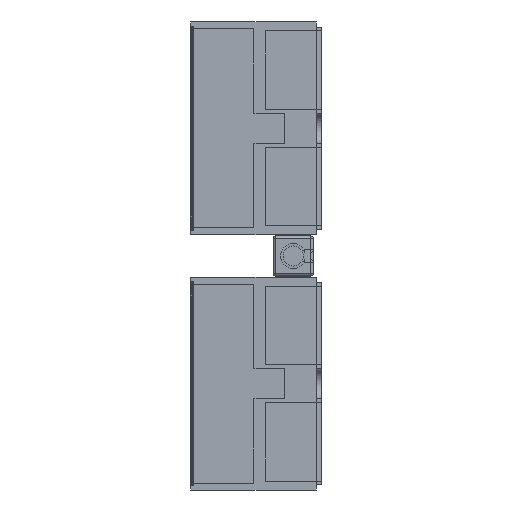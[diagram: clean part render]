
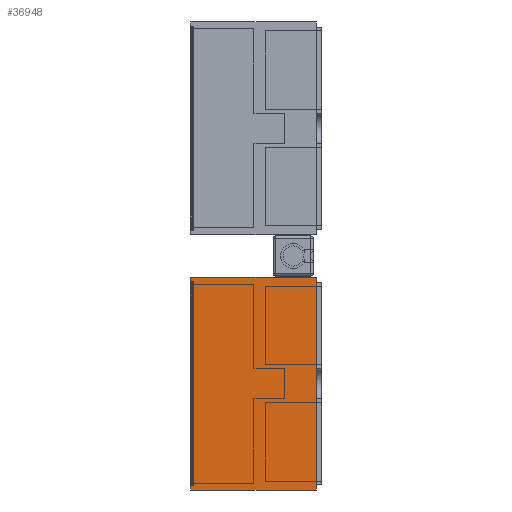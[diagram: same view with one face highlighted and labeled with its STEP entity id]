
A CAD part, front view. The second image highlights one B-rep face of the part: STEP entity #36948.
In plain terms, the highlighted planar face has unit normal (0, -1, 0) as drawn and (-0.707, -0.707, 0) by its records, which use the part's own axes.
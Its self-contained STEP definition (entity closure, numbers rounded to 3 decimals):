
#35860=DIRECTION('',(0.707,-0.707,0.));
#35861=VECTOR('',#35860,85.);
#35862=CARTESIAN_POINT('',(-60.104,0.,0.));
#35863=LINE('',#35862,#35861);
#35946=DIRECTION('',(0.,0.,1.));
#35947=VECTOR('',#35946,50.);
#35948=CARTESIAN_POINT('',(-60.104,0.,0.));
#35949=LINE('',#35948,#35947);
#35958=DIRECTION('',(0.,0.,1.));
#35959=VECTOR('',#35958,50.);
#35960=CARTESIAN_POINT('',(0.,-60.104,0.));
#35961=LINE('',#35960,#35959);
#35962=DIRECTION('',(0.707,-0.707,0.));
#35963=VECTOR('',#35962,85.);
#35964=CARTESIAN_POINT('',(-60.104,0.,50.));
#35965=LINE('',#35964,#35963);
#36768=CARTESIAN_POINT('',(-60.104,0.,0.));
#36769=CARTESIAN_POINT('',(0.,-60.104,0.));
#36770=VERTEX_POINT('',#36768);
#36771=VERTEX_POINT('',#36769);
#36776=CARTESIAN_POINT('',(-60.104,0.,50.));
#36777=CARTESIAN_POINT('',(0.,-60.104,50.));
#36778=VERTEX_POINT('',#36776);
#36779=VERTEX_POINT('',#36777);
#36934=CARTESIAN_POINT('',(-60.104,0.,0.));
#36935=DIRECTION('',(-0.707,-0.707,0.));
#36936=DIRECTION('',(0.707,-0.707,0.));
#36937=AXIS2_PLACEMENT_3D('',#36934,#36935,#36936);
#36938=PLANE('',#36937);
#36939=ORIENTED_EDGE('',*,*,#36885,.F.);
#36941=ORIENTED_EDGE('',*,*,#36940,.T.);
#36943=ORIENTED_EDGE('',*,*,#36942,.T.);
#36945=ORIENTED_EDGE('',*,*,#36944,.F.);
#36946=EDGE_LOOP('',(#36939,#36941,#36943,#36945));
#36947=FACE_OUTER_BOUND('',#36946,.F.);
#36948=ADVANCED_FACE('',(#36947),#36938,.T.);
#36885=EDGE_CURVE('',#36770,#36771,#35863,.T.);
#36940=EDGE_CURVE('',#36770,#36778,#35949,.T.);
#36942=EDGE_CURVE('',#36778,#36779,#35965,.T.);
#36944=EDGE_CURVE('',#36771,#36779,#35961,.T.);
